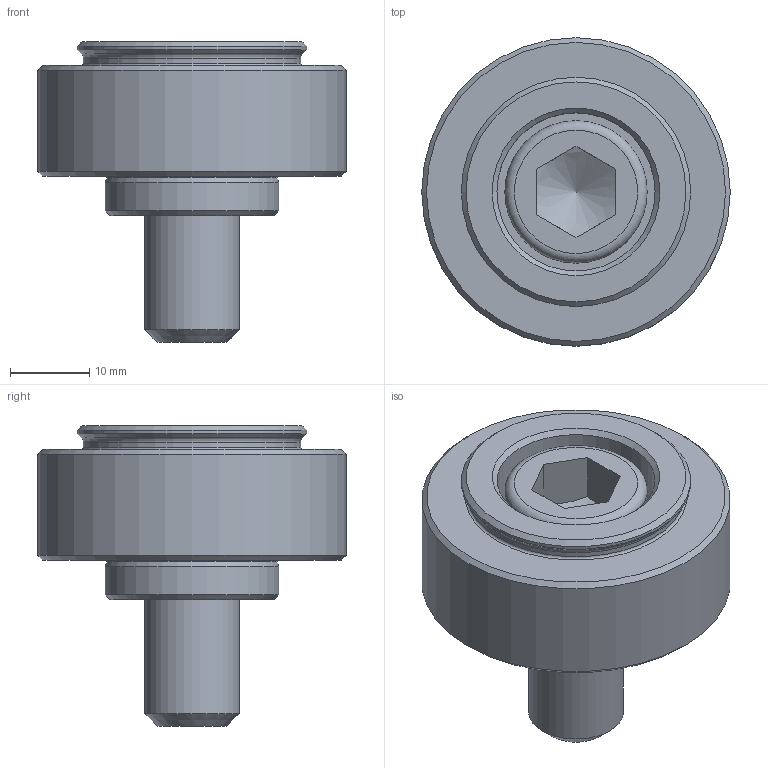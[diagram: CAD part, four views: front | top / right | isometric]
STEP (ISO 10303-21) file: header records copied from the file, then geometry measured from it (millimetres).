
FILE_DESCRIPTION(('STEP AP214'), '1');
FILE_NAME('BB.VS.100.51.017', '', ('UNSPECIFIED'), ('UNSPECIFIED'), 'C3D Converter', 'C3D Toolkit', '');
FILE_SCHEMA(('AUTOMOTIVE_DESIGN { 1 0 10303 214 3 1 1}'));
Length unit declared in the file: millimetre
Products named in the file (1): BB.VS.100.51.017 СБ
Bounding box: 39 x 39 x 38 mm (x, y, z)
Volume: 20297.7 mm3; surface area: 7638.7 mm2
Topology: 1 solids, 1 shells, 39 faces, 77 edges, 46 vertices
Faces by surface type: plane 14, cone 12, cylinder 8, torus 5
Full cylindrical faces by diameter (mm): 12 x1, 13 x1, 18 x1, 20 x1, 22 x1, 27.5 x1, 29 x1, 39 x1
Entity records: 1461 total; most frequent: CARTESIAN_POINT 403, DIRECTION 156, ORIENTED_EDGE 102, AXIS2_PLACEMENT_3D 72, EDGE_LOOP 70, EDGE_CURVE 51, FACE_OUTER_BOUND 46, VERTEX_POINT 45
